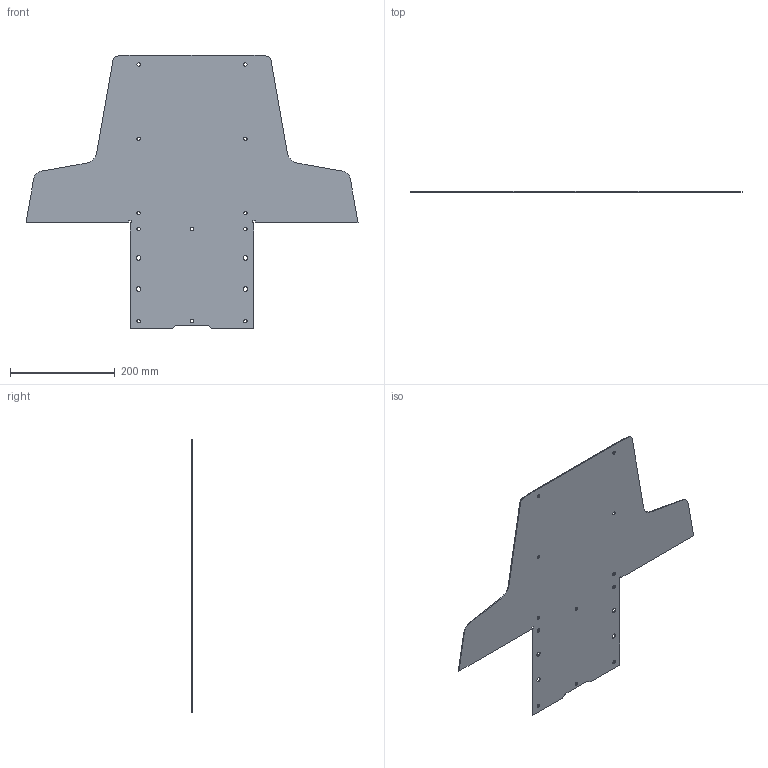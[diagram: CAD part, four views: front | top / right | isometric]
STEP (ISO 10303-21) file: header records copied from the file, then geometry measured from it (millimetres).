
FILE_DESCRIPTION (( 'STEP AP214' ), '1' );
FILE_NAME ('MONO_038-p101_01 (FLAT PATTERN).STEP', '2025-10-01T01:29:20', ( '' ), ( '' ), 'SwSTEP 2.0', 'SolidWorks 2024', '' );
FILE_SCHEMA (( 'AUTOMOTIVE_DESIGN' ));
Length unit declared in the file: millimetre
Products named in the file (1): MONO_038-p101_01 (FLAT PATTERN)
Bounding box: 634.44 x 1.6 x 523.24 mm (x, y, z)
Volume: 294400 mm3; surface area: 372059.3 mm2
Topology: 1 solids, 1 shells, 58 faces, 168 edges, 112 vertices
Faces by surface type: plane 30, cylinder 28
Full cylindrical faces by diameter (mm): 6.5 x12, 8.75 x4
Entity records: 1939 total; most frequent: CARTESIAN_POINT 335, DIRECTION 322, ORIENTED_EDGE 304, EDGE_CURVE 152, AXIS2_PLACEMENT_3D 115, VERTEX_POINT 112, EDGE_LOOP 106, LINE 92
